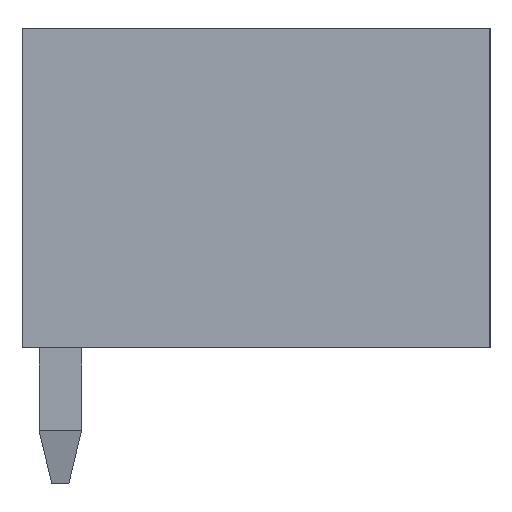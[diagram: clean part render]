
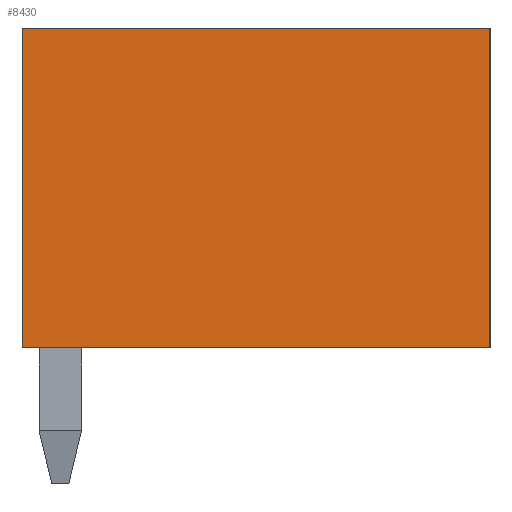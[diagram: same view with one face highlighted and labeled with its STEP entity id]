
A CAD part, left-side view. The second image highlights one B-rep face of the part: STEP entity #8430.
In plain terms, the highlighted planar face has unit normal (-1, 0, 0).
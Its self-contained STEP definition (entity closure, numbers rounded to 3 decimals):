
#671=DIRECTION('',(0.,1.,0.));
#672=VECTOR('',#671,11.);
#673=CARTESIAN_POINT('',(0.,0.037,0.));
#674=LINE('',#673,#672);
#1986=DIRECTION('',(0.,0.,-1.));
#1987=VECTOR('',#1986,7.5);
#1988=CARTESIAN_POINT('',(0.,11.037,0.));
#1989=LINE('',#1988,#1987);
#2004=DIRECTION('',(0.,1.,0.));
#2005=VECTOR('',#2004,11.);
#2006=CARTESIAN_POINT('',(0.,0.037,-7.5));
#2007=LINE('',#2006,#2005);
#2008=DIRECTION('',(0.,0.,-1.));
#2009=VECTOR('',#2008,7.5);
#2010=CARTESIAN_POINT('',(0.,0.037,0.));
#2011=LINE('',#2010,#2009);
#4444=CARTESIAN_POINT('',(0.,0.037,-7.5));
#4446=VERTEX_POINT('',#4444);
#4474=CARTESIAN_POINT('',(0.,11.037,-7.5));
#4475=VERTEX_POINT('',#4474);
#4508=CARTESIAN_POINT('',(0.,0.037,0.));
#4509=VERTEX_POINT('',#4508);
#4636=CARTESIAN_POINT('',(0.,11.037,0.));
#4637=VERTEX_POINT('',#4636);
#8419=CARTESIAN_POINT('',(0.,11.037,-7.5));
#8420=DIRECTION('',(-1.,0.,0.));
#8421=DIRECTION('',(0.,-1.,0.));
#8422=AXIS2_PLACEMENT_3D('',#8419,#8420,#8421);
#8423=PLANE('',#8422);
#8424=ORIENTED_EDGE('',*,*,#5625,.T.);
#8425=ORIENTED_EDGE('',*,*,#8407,.F.);
#8426=ORIENTED_EDGE('',*,*,#6343,.F.);
#8427=ORIENTED_EDGE('',*,*,#5668,.T.);
#8428=EDGE_LOOP('',(#8424,#8425,#8426,#8427));
#8429=FACE_OUTER_BOUND('',#8428,.F.);
#8430=ADVANCED_FACE('',(#8429),#8423,.T.);
#5625=EDGE_CURVE('',#4446,#4475,#2007,.T.);
#5668=EDGE_CURVE('',#4509,#4446,#2011,.T.);
#6343=EDGE_CURVE('',#4509,#4637,#674,.T.);
#8407=EDGE_CURVE('',#4637,#4475,#1989,.T.);
